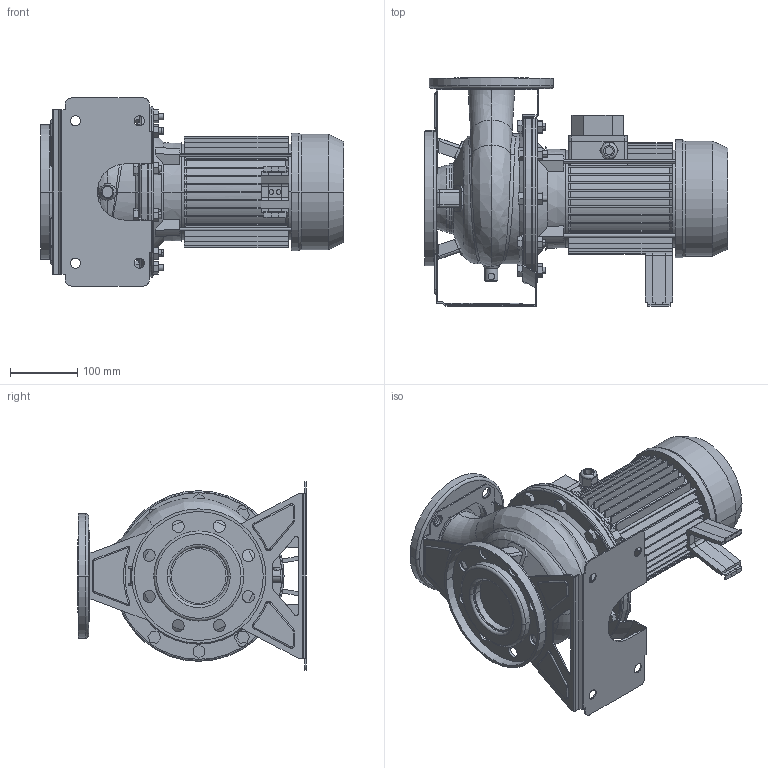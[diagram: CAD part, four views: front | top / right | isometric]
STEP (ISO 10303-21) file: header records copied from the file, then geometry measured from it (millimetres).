
FILE_DESCRIPTION((''),'2;1');
FILE_NAME('3M4_65-125_0_75_IE2_ASM','2012-03-14T',('Rosa'),('"Ebara Pumps Europe +39.444.706811"'),'PRO/ENGINEER BY PARAMETRIC TECHNOLOGY CORPORATION, 2009360','PRO/ENGINEER BY PARAMETRIC TECHNOLOGY CORPORATION, 2009360','');
FILE_SCHEMA(('AUTOMOTIVE_DESIGN { 1 0 10303 214 1 1 1 1 }'));
Length unit declared in the file: millimetre
Products named in the file (11): CORPO_65-125; ASP_65-125; FLANGIA_DIN_80_8_FORI; MAND_65-125; FLANGIA_DIN_65; BASE_3M_65-125; CORPO_SALDATO_65-125_ASM; SUPPORTO_3M_190_90; MEC_90X120_IE2; SOSTEGNO_72006; 3M4_65-125_0_75_IE2_ASM
Assembly tree (11 placements, depth 3):
  3M4_65-125_0_75_IE2_ASM
    CORPO_SALDATO_65-125_ASM
      CORPO_65-125
      ASP_65-125
      FLANGIA_DIN_80_8_FORI
      MAND_65-125
      FLANGIA_DIN_65
      BASE_3M_65-125
    SUPPORTO_3M_190_90
    MEC_90X120_IE2
    SOSTEGNO_72006  x2
Bounding box: 452 x 340 x 280 mm (x, y, z)
Volume: 8549322.5 mm3; surface area: 1172261.3 mm2
Topology: 13 solids, 13 shells, 1112 faces, 2847 edges, 1818 vertices
Faces by surface type: plane 592, cylinder 315, cone 98, torus 60, bspline 33, sphere 14
Entity records: 49083 total; most frequent: CARTESIAN_POINT 11403, DIRECTION 5616, ORIENTED_EDGE 5526, PRESENTATION_STYLE_ASSIGNMENT 2775, STYLED_ITEM 2775, CURVE_STYLE 2763, EDGE_CURVE 2763, AXIS2_PLACEMENT_3D 2047
